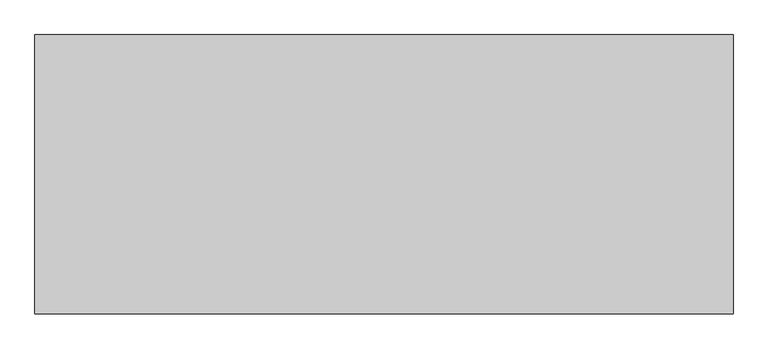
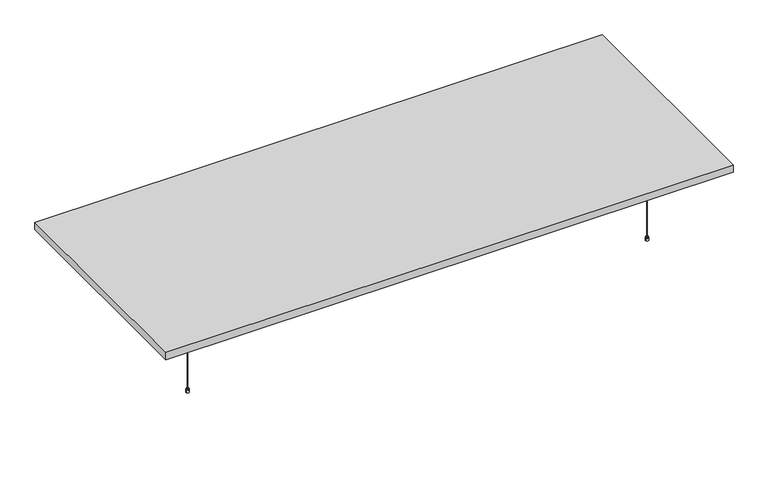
"""IFC4 building model written with IfcOpenShell, lengths in millimetres: proxy geometry, OWA Selecta : Selecta grande XL."""

from ifc_helpers import new_model, si_unit, point, frame, frame_2d, origin, place, context, project, spatial, polyline, circle_curve, trimmed, segment, composite_curve, outline, extrude, source, transform, mapped, element, save
from ifc_brep_helpers import plane_surface, cylinder_surface, revolved_surface, advanced_brep


def specialty_equipment_03e5362a(model_context):
    return source(origin(), model_context, "Body", "SolidModel", [
        advanced_brep(
        [(781.5, -305.0, 0.0), (773.7593825, -305.0, 0.0), (789.2406175, -305.0, 0.0), (773.7593825, -305.0, 15.0), (789.2406175, -305.0, 15.0), (774.6843825, -305.0, 15.0), (788.3156175, -305.0, 15.0), (774.6843825, -305.0, 19.0), (788.3156175, -305.0, 19.0), (779.4343825, -305.0, 19.0), (783.5656175, -305.0, 19.0), (779.4343825, -305.0, 22.546183), (783.5656175, -305.0, 22.546183), (781.5, -305.0, 22.546183)],
        [
            (0, 1),
            (1, 2, circle_curve(frame((781.5, -305.0, 0.0), z_axis=(0.0, 0.0, -1.0), x_axis=(1.0, 0.0, 0.0)), 7.7406175)),
            (2, 0),
            (2, 1, circle_curve(frame((781.5, -305.0, 0.0), z_axis=(0.0, 0.0, -1.0), x_axis=(1.0, 0.0, 0.0)), 7.7406175)),
            (1, 3),
            (3, 4, circle_curve(frame((781.5, -305.0, 15.0), z_axis=(0.0, 0.0, -1.0), x_axis=(1.0, 0.0, 0.0)), 7.7406175)),
            (4, 2),
            (4, 3, circle_curve(frame((781.5, -305.0, 15.0), z_axis=(0.0, 0.0, -1.0), x_axis=(1.0, 0.0, 0.0)), 7.7406175)),
            (3, 5),
            (5, 6, circle_curve(frame((781.5, -305.0, 15.0), z_axis=(0.0, 0.0, -1.0), x_axis=(1.0, 0.0, 0.0)), 6.8156175)),
            (6, 4),
            (6, 5, circle_curve(frame((781.5, -305.0, 15.0), z_axis=(0.0, 0.0, -1.0), x_axis=(1.0, 0.0, 0.0)), 6.8156175)),
            (5, 7),
            (7, 8, circle_curve(frame((781.5, -305.0, 19.0), z_axis=(0.0, 0.0, -1.0), x_axis=(1.0, 0.0, 0.0)), 6.8156175)),
            (8, 6),
            (8, 7, circle_curve(frame((781.5, -305.0, 19.0), z_axis=(0.0, 0.0, -1.0), x_axis=(1.0, 0.0, 0.0)), 6.8156175)),
            (7, 9),
            (9, 10, circle_curve(frame((781.5, -305.0, 19.0), z_axis=(0.0, 0.0, -1.0), x_axis=(1.0, 0.0, 0.0)), 2.0656175)),
            (10, 8),
            (10, 9, circle_curve(frame((781.5, -305.0, 19.0), z_axis=(0.0, 0.0, -1.0), x_axis=(1.0, 0.0, 0.0)), 2.0656175)),
            (9, 11),
            (11, 12, circle_curve(frame((781.5, -305.0, 22.546183), z_axis=(0.0, 0.0, -1.0), x_axis=(1.0, 0.0, 0.0)), 2.0656175)),
            (12, 10),
            (12, 11, circle_curve(frame((781.5, -305.0, 22.546183), z_axis=(0.0, 0.0, -1.0), x_axis=(1.0, 0.0, 0.0)), 2.0656175)),
            (11, 13),
            (13, 12),
        ],
        [
            plane_surface(frame((781.5, -305.0, 0.0), z_axis=(0.0, 0.0, -1.0), x_axis=(1.0, 0.0, 0.0))),
            cylinder_surface(frame((781.5, -305.0, -10.0), z_axis=(0.0, 0.0, -1.0), x_axis=(1.0, 0.0, 0.0)), 7.7406175),
            plane_surface(frame((781.5, -305.0, 15.0), z_axis=(0.0, 0.0, 1.0), x_axis=(1.0, 0.0, 0.0))),
            cylinder_surface(frame((781.5, -305.0, -10.0), z_axis=(0.0, 0.0, -1.0), x_axis=(1.0, 0.0, 0.0)), 6.8156175),
            plane_surface(frame((781.5, -305.0, 19.0), z_axis=(0.0, 0.0, 1.0), x_axis=(1.0, 0.0, 0.0))),
            cylinder_surface(frame((781.5, -305.0, -10.0), z_axis=(0.0, 0.0, -1.0), x_axis=(1.0, 0.0, 0.0)), 2.0656175),
            plane_surface(frame((781.5, -305.0, 22.546183), z_axis=(0.0, 0.0, 1.0), x_axis=(1.0, 0.0, 0.0))),
        ],
        [
            (0, [[1, 2, 3]]),
            (0, [[-3, 4, -1]]),
            (1, [[5, 6, 7, -2]]),
            (1, [[-7, 8, -5, -4]]),
            (2, [[9, 10, 11, -6]]),
            (2, [[-11, 12, -9, -8]]),
            (3, [[13, 14, 15, -10]]),
            (3, [[-15, 16, -13, -12]]),
            (4, [[17, 18, 19, -14]]),
            (4, [[-19, 20, -17, -16]]),
            (5, [[21, 22, 23, -18]]),
            (5, [[-23, 24, -21, -20]]),
            (6, [[25, 26, -22]]),
            (6, [[-26, -25, -24]]),
        ],
    ),
        advanced_brep(
        [(779.2615389, -305.0, 428.8211737), (779.1339453, -305.0, 432.8711737), (783.8660547, -305.0, 432.8711737), (783.7384611, -305.0, 428.8211737), (776.6339453, -305.0, 432.8711737), (786.3660547, -305.0, 432.8711737), (776.6339453, -305.0, 458.1211737), (786.3660547, -305.0, 458.1211737), (765.6339453, -305.0, 458.1211737), (797.3660547, -305.0, 458.1211737), (765.6339453, -305.0, 460.0), (797.3660547, -305.0, 460.0), (781.5, -305.0, 460.0), (781.5, -305.0, 428.8211737)],
        [
            (0, 1),
            (1, 2, circle_curve(frame((781.5, -305.0, 432.8711737), z_axis=(0.0, 0.0, -1.0), x_axis=(1.0, 0.0, 0.0)), 2.3660547)),
            (2, 3),
            (3, 0, circle_curve(frame((781.5, -305.0, 428.8211737), z_axis=(0.0, 0.0, 1.0), x_axis=(1.0, 0.0, 0.0)), 2.2384611)),
            (2, 1, circle_curve(frame((781.5, -305.0, 432.8711737), z_axis=(0.0, 0.0, -1.0), x_axis=(1.0, 0.0, 0.0)), 2.3660547)),
            (0, 3, circle_curve(frame((781.5, -305.0, 428.8211737), z_axis=(0.0, 0.0, 1.0), x_axis=(1.0, 0.0, 0.0)), 2.2384611)),
            (1, 4),
            (4, 5, circle_curve(frame((781.5, -305.0, 432.8711737), z_axis=(0.0, 0.0, -1.0), x_axis=(1.0, 0.0, 0.0)), 4.8660547)),
            (5, 2),
            (5, 4, circle_curve(frame((781.5, -305.0, 432.8711737), z_axis=(0.0, 0.0, -1.0), x_axis=(1.0, 0.0, 0.0)), 4.8660547)),
            (4, 6),
            (6, 7, circle_curve(frame((781.5, -305.0, 458.1211737), z_axis=(0.0, 0.0, -1.0), x_axis=(1.0, 0.0, 0.0)), 4.8660547)),
            (7, 5),
            (7, 6, circle_curve(frame((781.5, -305.0, 458.1211737), z_axis=(0.0, 0.0, -1.0), x_axis=(1.0, 0.0, 0.0)), 4.8660547)),
            (6, 8),
            (8, 9, circle_curve(frame((781.5, -305.0, 458.1211737), z_axis=(0.0, 0.0, -1.0), x_axis=(1.0, 0.0, 0.0)), 15.8660547)),
            (9, 7),
            (9, 8, circle_curve(frame((781.5, -305.0, 458.1211737), z_axis=(0.0, 0.0, -1.0), x_axis=(1.0, 0.0, 0.0)), 15.8660547)),
            (8, 10),
            (10, 11, circle_curve(frame((781.5, -305.0, 460.0), z_axis=(0.0, 0.0, -1.0), x_axis=(1.0, 0.0, 0.0)), 15.8660547)),
            (11, 9),
            (11, 10, circle_curve(frame((781.5, -305.0, 460.0), z_axis=(0.0, 0.0, -1.0), x_axis=(1.0, 0.0, 0.0)), 15.8660547)),
            (10, 12),
            (12, 11),
            (13, 0),
            (3, 13),
        ],
        [
            revolved_surface(polyline([(783.8660547, -305.0, 432.8711737), (783.7384611, -305.0, 428.8211737)]), (781.5, -305.0, 461.8401096), (0.0, 0.0, -1.0)),
            plane_surface(frame((781.5, -305.0, 432.8711737), z_axis=(0.0, 0.0, -1.0), x_axis=(1.0, 0.0, 0.0))),
            cylinder_surface(frame((781.5, -305.0, 461.8401096), z_axis=(0.0, 0.0, -1.0), x_axis=(1.0, 0.0, 0.0)), 4.8660547),
            plane_surface(frame((781.5, -305.0, 458.1211737), z_axis=(0.0, 0.0, -1.0), x_axis=(1.0, 0.0, 0.0))),
            cylinder_surface(frame((781.5, -305.0, 461.8401096), z_axis=(0.0, 0.0, -1.0), x_axis=(1.0, 0.0, 0.0)), 15.8660547),
            plane_surface(frame((781.5, -305.0, 460.0), z_axis=(0.0, 0.0, 1.0), x_axis=(1.0, 0.0, 0.0))),
            plane_surface(frame((781.5, -305.0, 428.8211737), z_axis=(0.0, 0.0, -1.0), x_axis=(1.0, 0.0, 0.0))),
        ],
        [
            (0, [[1, 2, 3, 4]]),
            (0, [[-3, 5, -1, 6]]),
            (1, [[7, 8, 9, -2]]),
            (1, [[-9, 10, -7, -5]]),
            (2, [[11, 12, 13, -8]]),
            (2, [[-13, 14, -11, -10]]),
            (3, [[15, 16, 17, -12]]),
            (3, [[-17, 18, -15, -14]]),
            (4, [[19, 20, 21, -16]]),
            (4, [[-21, 22, -19, -18]]),
            (5, [[23, 24, -20]]),
            (5, [[-24, -23, -22]]),
            (6, [[25, -4, 26]]),
            (6, [[-26, -6, -25]]),
        ],
    ),
        extrude(outline(composite_curve([segment(trimmed(circle_curve(frame_2d((781.5, -305.0)), 1.0), [point((782.5, -305.0))], [point((780.5, -305.0))], False, "CARTESIAN"), True, "CONTINUOUS"), segment(trimmed(circle_curve(frame_2d((781.5, -305.0)), 1.0), [point((780.5, -305.0))], [point((782.5, -305.0))], False, "CARTESIAN"), True, "CONTINUOUS")], self_intersect=False)), frame((0.0, 0.0, 22.546183), z_axis=(0.0, 0.0, 1.0), x_axis=(1.0, 0.0, 0.0)), (0.0, 0.0, 1.0), 406.2749908),
        advanced_brep(
        [(-1648.5, -305.0, 0.0), (-1656.2406175, -305.0, 0.0), (-1640.7593825, -305.0, 0.0), (-1656.2406175, -305.0, 15.0), (-1640.7593825, -305.0, 15.0), (-1655.3156175, -305.0, 15.0), (-1641.6843825, -305.0, 15.0), (-1655.3156175, -305.0, 19.0), (-1641.6843825, -305.0, 19.0), (-1650.5656175, -305.0, 19.0), (-1646.4343825, -305.0, 19.0), (-1650.5656175, -305.0, 22.546183), (-1646.4343825, -305.0, 22.546183), (-1648.5, -305.0, 22.546183)],
        [
            (0, 1),
            (1, 2, circle_curve(frame((-1648.5, -305.0, 0.0), z_axis=(0.0, 0.0, -1.0), x_axis=(-1.0, 0.0, 0.0)), 7.7406175)),
            (2, 0),
            (2, 1, circle_curve(frame((-1648.5, -305.0, 0.0), z_axis=(0.0, 0.0, -1.0), x_axis=(-1.0, 0.0, 0.0)), 7.7406175)),
            (1, 3),
            (3, 4, circle_curve(frame((-1648.5, -305.0, 15.0), z_axis=(0.0, 0.0, -1.0), x_axis=(-1.0, 0.0, 0.0)), 7.7406175)),
            (4, 2),
            (4, 3, circle_curve(frame((-1648.5, -305.0, 15.0), z_axis=(0.0, 0.0, -1.0), x_axis=(-1.0, 0.0, 0.0)), 7.7406175)),
            (3, 5),
            (5, 6, circle_curve(frame((-1648.5, -305.0, 15.0), z_axis=(0.0, 0.0, -1.0), x_axis=(-1.0, 0.0, 0.0)), 6.8156175)),
            (6, 4),
            (6, 5, circle_curve(frame((-1648.5, -305.0, 15.0), z_axis=(0.0, 0.0, -1.0), x_axis=(-1.0, 0.0, 0.0)), 6.8156175)),
            (5, 7),
            (7, 8, circle_curve(frame((-1648.5, -305.0, 19.0), z_axis=(0.0, 0.0, -1.0), x_axis=(-1.0, 0.0, 0.0)), 6.8156175)),
            (8, 6),
            (8, 7, circle_curve(frame((-1648.5, -305.0, 19.0), z_axis=(0.0, 0.0, -1.0), x_axis=(-1.0, 0.0, 0.0)), 6.8156175)),
            (7, 9),
            (9, 10, circle_curve(frame((-1648.5, -305.0, 19.0), z_axis=(0.0, 0.0, -1.0), x_axis=(-1.0, 0.0, 0.0)), 2.0656175)),
            (10, 8),
            (10, 9, circle_curve(frame((-1648.5, -305.0, 19.0), z_axis=(0.0, 0.0, -1.0), x_axis=(-1.0, 0.0, 0.0)), 2.0656175)),
            (9, 11),
            (11, 12, circle_curve(frame((-1648.5, -305.0, 22.546183), z_axis=(0.0, 0.0, -1.0), x_axis=(-1.0, 0.0, 0.0)), 2.0656175)),
            (12, 10),
            (12, 11, circle_curve(frame((-1648.5, -305.0, 22.546183), z_axis=(0.0, 0.0, -1.0), x_axis=(-1.0, 0.0, 0.0)), 2.0656175)),
            (11, 13),
            (13, 12),
        ],
        [
            plane_surface(frame((-1648.5, -305.0, 0.0), z_axis=(0.0, 0.0, -1.0), x_axis=(-1.0, 0.0, 0.0))),
            cylinder_surface(frame((-1648.5, -305.0, -10.0), z_axis=(0.0, 0.0, -1.0), x_axis=(-1.0, 0.0, 0.0)), 7.7406175),
            plane_surface(frame((-1648.5, -305.0, 15.0), z_axis=(0.0, 0.0, 1.0), x_axis=(-1.0, 0.0, 0.0))),
            cylinder_surface(frame((-1648.5, -305.0, -10.0), z_axis=(0.0, 0.0, -1.0), x_axis=(-1.0, 0.0, 0.0)), 6.8156175),
            plane_surface(frame((-1648.5, -305.0, 19.0), z_axis=(0.0, 0.0, 1.0), x_axis=(-1.0, 0.0, 0.0))),
            cylinder_surface(frame((-1648.5, -305.0, -10.0), z_axis=(0.0, 0.0, -1.0), x_axis=(-1.0, 0.0, 0.0)), 2.0656175),
            plane_surface(frame((-1648.5, -305.0, 22.546183), z_axis=(0.0, 0.0, 1.0), x_axis=(-1.0, 0.0, 0.0))),
        ],
        [
            (0, [[1, 2, 3]]),
            (0, [[-3, 4, -1]]),
            (1, [[-2, 5, 6, 7]]),
            (1, [[-4, -7, 8, -5]]),
            (2, [[-6, 9, 10, 11]]),
            (2, [[-8, -11, 12, -9]]),
            (3, [[-10, 13, 14, 15]]),
            (3, [[-12, -15, 16, -13]]),
            (4, [[-14, 17, 18, 19]]),
            (4, [[-16, -19, 20, -17]]),
            (5, [[-18, 21, 22, 23]]),
            (5, [[-20, -23, 24, -21]]),
            (6, [[-22, 25, 26]]),
            (6, [[-24, -26, -25]]),
        ],
    ),
        advanced_brep(
        [(-1646.2615389, -305.0, 428.8211737), (-1650.7384611, -305.0, 428.8211737), (-1650.8660547, -305.0, 432.8711737), (-1646.1339453, -305.0, 432.8711737), (-1653.3660547, -305.0, 432.8711737), (-1643.6339453, -305.0, 432.8711737), (-1653.3660547, -305.0, 458.1211737), (-1643.6339453, -305.0, 458.1211737), (-1664.3660547, -305.0, 458.1211737), (-1632.6339453, -305.0, 458.1211737), (-1664.3660547, -305.0, 460.0), (-1632.6339453, -305.0, 460.0), (-1648.5, -305.0, 460.0), (-1648.5, -305.0, 428.8211737)],
        [
            (0, 1, circle_curve(frame((-1648.5, -305.0, 428.8211737), z_axis=(0.0, 0.0, 1.0), x_axis=(-1.0, 0.0, 0.0)), 2.2384611)),
            (1, 2),
            (2, 3, circle_curve(frame((-1648.5, -305.0, 432.8711737), z_axis=(0.0, 0.0, -1.0), x_axis=(-1.0, 0.0, 0.0)), 2.3660547)),
            (3, 0),
            (1, 0, circle_curve(frame((-1648.5, -305.0, 428.8211737), z_axis=(0.0, 0.0, 1.0), x_axis=(-1.0, 0.0, 0.0)), 2.2384611)),
            (3, 2, circle_curve(frame((-1648.5, -305.0, 432.8711737), z_axis=(0.0, 0.0, -1.0), x_axis=(-1.0, 0.0, 0.0)), 2.3660547)),
            (2, 4),
            (4, 5, circle_curve(frame((-1648.5, -305.0, 432.8711737), z_axis=(0.0, 0.0, -1.0), x_axis=(-1.0, 0.0, 0.0)), 4.8660547)),
            (5, 3),
            (5, 4, circle_curve(frame((-1648.5, -305.0, 432.8711737), z_axis=(0.0, 0.0, -1.0), x_axis=(-1.0, 0.0, 0.0)), 4.8660547)),
            (4, 6),
            (6, 7, circle_curve(frame((-1648.5, -305.0, 458.1211737), z_axis=(0.0, 0.0, -1.0), x_axis=(-1.0, 0.0, 0.0)), 4.8660547)),
            (7, 5),
            (7, 6, circle_curve(frame((-1648.5, -305.0, 458.1211737), z_axis=(0.0, 0.0, -1.0), x_axis=(-1.0, 0.0, 0.0)), 4.8660547)),
            (6, 8),
            (8, 9, circle_curve(frame((-1648.5, -305.0, 458.1211737), z_axis=(0.0, 0.0, -1.0), x_axis=(-1.0, 0.0, 0.0)), 15.8660547)),
            (9, 7),
            (9, 8, circle_curve(frame((-1648.5, -305.0, 458.1211737), z_axis=(0.0, 0.0, -1.0), x_axis=(-1.0, 0.0, 0.0)), 15.8660547)),
            (8, 10),
            (10, 11, circle_curve(frame((-1648.5, -305.0, 460.0), z_axis=(0.0, 0.0, -1.0), x_axis=(-1.0, 0.0, 0.0)), 15.8660547)),
            (11, 9),
            (11, 10, circle_curve(frame((-1648.5, -305.0, 460.0), z_axis=(0.0, 0.0, -1.0), x_axis=(-1.0, 0.0, 0.0)), 15.8660547)),
            (10, 12),
            (12, 11),
            (13, 1),
            (0, 13),
        ],
        [
            revolved_surface(polyline([(-1650.8660547, -305.0, 432.8711737), (-1650.7384611, -305.0, 428.8211737)]), (-1648.5, -305.0, 461.8401096), (0.0, 0.0, -1.0)),
            plane_surface(frame((-1648.5, -305.0, 432.8711737), z_axis=(0.0, 0.0, -1.0), x_axis=(-1.0, 0.0, 0.0))),
            cylinder_surface(frame((-1648.5, -305.0, 461.8401096), z_axis=(0.0, 0.0, -1.0), x_axis=(-1.0, 0.0, 0.0)), 4.8660547),
            plane_surface(frame((-1648.5, -305.0, 458.1211737), z_axis=(0.0, 0.0, -1.0), x_axis=(-1.0, 0.0, 0.0))),
            cylinder_surface(frame((-1648.5, -305.0, 461.8401096), z_axis=(0.0, 0.0, -1.0), x_axis=(-1.0, 0.0, 0.0)), 15.8660547),
            plane_surface(frame((-1648.5, -305.0, 460.0), z_axis=(0.0, 0.0, 1.0), x_axis=(-1.0, 0.0, 0.0))),
            plane_surface(frame((-1648.5, -305.0, 428.8211737), z_axis=(0.0, 0.0, -1.0), x_axis=(-1.0, 0.0, 0.0))),
        ],
        [
            (0, [[1, 2, 3, 4]]),
            (0, [[5, -4, 6, -2]]),
            (1, [[-3, 7, 8, 9]]),
            (1, [[-6, -9, 10, -7]]),
            (2, [[-8, 11, 12, 13]]),
            (2, [[-10, -13, 14, -11]]),
            (3, [[-12, 15, 16, 17]]),
            (3, [[-14, -17, 18, -15]]),
            (4, [[-16, 19, 20, 21]]),
            (4, [[-18, -21, 22, -19]]),
            (5, [[-20, 23, 24]]),
            (5, [[-22, -24, -23]]),
            (6, [[25, -1, 26]]),
            (6, [[-26, -5, -25]]),
        ],
    ),
        extrude(outline(composite_curve([segment(trimmed(circle_curve(frame_2d((-1648.5, -305.0)), 1.0), [point((-1649.5, -305.0))], [point((-1647.5, -305.0))], False, "CARTESIAN"), True, "CONTINUOUS"), segment(trimmed(circle_curve(frame_2d((-1648.5, -305.0)), 1.0), [point((-1647.5, -305.0))], [point((-1649.5, -305.0))], False, "CARTESIAN"), True, "CONTINUOUS")], self_intersect=False)), frame((0.0, 0.0, 22.546183), z_axis=(0.0, 0.0, 1.0), x_axis=(1.0, 0.0, 0.0)), (0.0, 0.0, 1.0), 406.2749908),
        extrude(outline(polyline([(1066.5, 600.0), (1066.5, -600.0), (-1933.5, -600.0), (-1933.5, 600.0), (1066.5, 600.0)])), frame((0.0, 0.0, 460.0), z_axis=(0.0, 0.0, 1.0), x_axis=(1.0, 0.0, 0.0)), (0.0, 0.0, 1.0), 40.0),
    ])


if __name__ == "__main__":
    model = new_model("IFC4")
    model_context = context("Model", 3, world=origin())
    ifc_project = project(units=[si_unit("LENGTHUNIT", "METRE", prefix="MILLI")], contexts=[model_context])
    site = spatial("IfcSite", under=ifc_project)
    building = spatial("IfcBuilding", under=site)
    placement = place(None, origin())
    specialty_equipment_shape = specialty_equipment_03e5362a(model_context)
    element("IfcBuildingElementProxy", 1, Name="OWA Selecta : Selecta grande XL", ObjectType="OWA Selecta : Selecta grande XL", at=placement, inside=building, context=model_context, shape_type="MappedRepresentation", body=[
        mapped(specialty_equipment_shape, transform((0.0, 0.0, 0.0), x_axis=(1.0, 0.0, 0.0), y_axis=(0.0, 1.0, 0.0), z_axis=(0.0, 0.0, 1.0))),
    ])
    save(model, "model.ifc")
